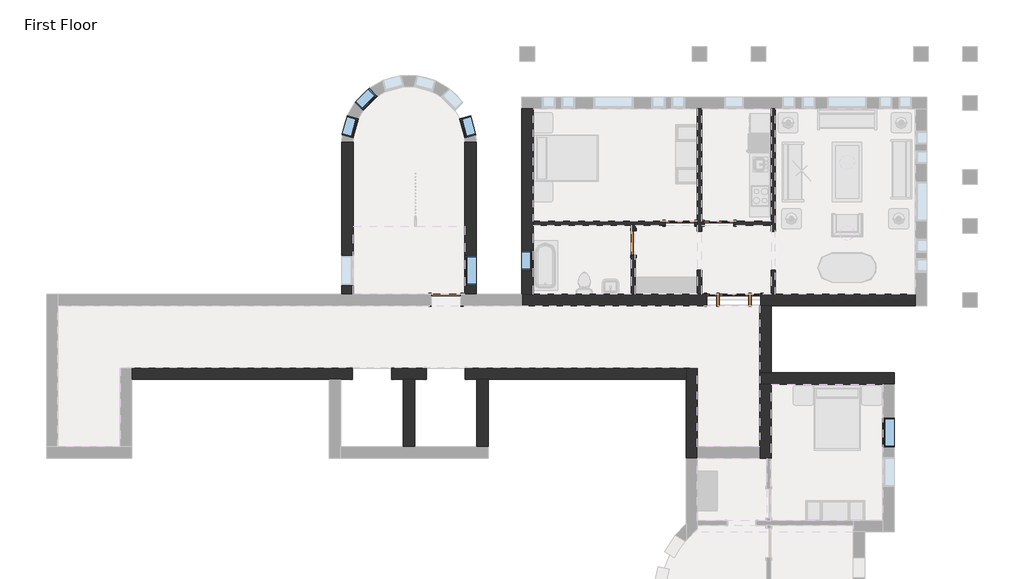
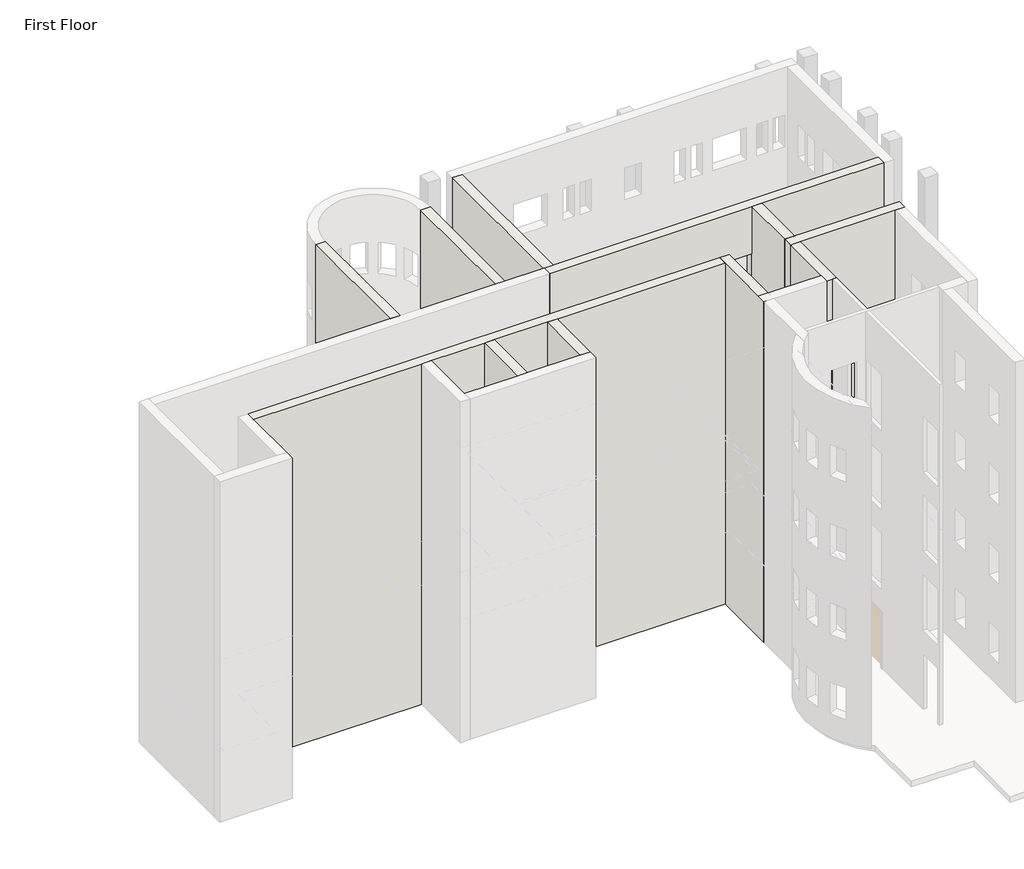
# One storey, part 3 of 8: 17 walls, 6 windows, 5 doors.
"""IFC4 building model written with IfcOpenShell, lengths in millimetres."""

from ifc_helpers import new_model, si_unit, frame, origin, origin_with_axes, place, context, project, spatial, polyline, outline, extrude, faceted_brep, transform, mapped, element, save
from components import door_829da954, door_2e3b4da2, door_4d6c7550, door_632be17d, door_dba5aa2e, window_60baf983, window_15c49d37, m_fixed_0915_x_1220mm_ca90dcf7

model = new_model("IFC4")

# Units and contexts
model_context = context("Model", 3, world=origin())
ifc_project = project(units=[si_unit("LENGTHUNIT", "METRE", prefix="MILLI")], contexts=[model_context])

# Site, building, storey
site = spatial("IfcSite", under=ifc_project)
building = spatial("IfcBuilding", under=site)
storey = spatial("IfcBuildingStorey", under=building, Name="First Floor", Elevation=0.0)

# Doors
placement = place(None, origin())
door_shape = door_829da954(model_context)
element("IfcDoor", 1, ObjectType="Single-Decorative 2 : 36\" x 84\"", at=placement, inside=storey, context=model_context, shape_type="MappedRepresentation", body=[
    mapped(door_shape, transform((-5449.8589563, 6723.5441867, 0.0), x_axis=(-1.0, 0.0, 0.0), y_axis=(0.0, -1.0, 0.0), z_axis=(0.0, 0.0, 1.0))),
])
door_2_shape = door_2e3b4da2(model_context)
element("IfcDoor", 2, ObjectType="Single-Decorative 2 : 36\" x 84\"", at=placement, inside=storey, context=model_context, shape_type="MappedRepresentation", body=[
    mapped(door_2_shape, transform((-6669.0589563, 6723.5441867, 0.0), x_axis=(1.0, 0.0, 0.0), y_axis=(0.0, 1.0, 0.0), z_axis=(0.0, 0.0, 1.0))),
])
door_3_shape = door_4d6c7550(model_context)
element("IfcDoor", 3, ObjectType="Single-Flush : 30\" x 84\"", at=placement, inside=storey, context=model_context, shape_type="MappedRepresentation", body=[
    mapped(door_3_shape, transform((-8105.7464563, 6113.9441867, 0.0), x_axis=(0.0, 1.0, 0.0), y_axis=(-1.0, 0.0, 0.0), z_axis=(0.0, 0.0, 1.0))),
])
door_4_shape = door_632be17d(model_context)
element("IfcDoor", 4, ObjectType="Single-Flush : 36\" x 84\"", at=placement, inside=storey, context=model_context, shape_type="MappedRepresentation", body=[
    mapped(door_4_shape, transform((-13919.1714563, 4350.2316867, 0.0), x_axis=(1.0, 0.0, 0.0), y_axis=(0.0, 1.0, 0.0), z_axis=(0.0, 0.0, 1.0))),
])
door_5_shape = door_dba5aa2e(model_context)
element("IfcDoor", 5, ObjectType="Single-Raised Panel with Sidelights : 36\" x 84\"", at=placement, inside=storey, context=model_context, shape_type="MappedRepresentation", body=[
    mapped(door_5_shape, transform((-4992.6589563, 4350.2316867, 0.0), x_axis=(-1.0, 0.0, 0.0), y_axis=(0.0, -1.0, 0.0), z_axis=(0.0, 0.0, 1.0))),
])

# Walls
element("IfcWall", 6, ObjectType="Exterior - Brick on Mtl. Stud", at=placement, inside=storey, context=model_context, shape_type="Brep", body=[
    faceted_brep([(-11545.8589563, 4526.4441867, 13106.4), (-11545.8589563, 4526.4441867, 0.0), (-11545.8589563, 4174.0191867, 0.0), (-11545.8589563, 4174.0191867, 13106.4), (-11217.2464563, 4526.4441867, 0.0), (-8169.2464563, 4526.4441867, 0.0), (-8042.2464563, 4526.4441867, 0.0), (-6122.9589563, 4526.4441867, 0.0), (-5995.9589563, 4526.4441867, 0.0), (-5830.8589563, 4526.4441867, 0.0), (-5830.8589563, 4174.0191867, 0.0), (-4154.4589563, 4526.4441867, 0.0), (-3836.9589563, 4526.4441867, 0.0), (-3709.9589563, 4526.4441867, 0.0), (622.3285437, 4526.4441867, 0.0), (622.3285437, 4174.0191867, 0.0), (-3836.9589563, 4174.0191867, 0.0), (-4154.4589563, 4174.0191867, 0.0), (622.3285437, 4526.4441867, 13106.4), (-11217.2464563, 4526.4441867, 13106.4), (-4189.3839563, 4174.0191867, 13106.4), (-3836.9589563, 4174.0191867, 13106.4), (622.3285437, 4174.0191867, 13106.4), (-5830.8589563, 4526.4441867, 2133.6), (-4154.4589563, 4526.4441867, 2133.6), (-4154.4589563, 4526.4441867, 6096.0), (-4154.4589563, 4526.4441867, 8229.6), (-5830.8589563, 4526.4441867, 8229.6), (-5830.8589563, 4526.4441867, 6096.0), (-4154.4589563, 4526.4441867, 3048.0), (-4154.4589563, 4526.4441867, 5181.6), (-5830.8589563, 4526.4441867, 5181.6), (-5830.8589563, 4526.4441867, 3048.0), (-4154.4589563, 4526.4441867, 9144.0), (-4154.4589563, 4526.4441867, 11277.6), (-5830.8589563, 4526.4441867, 11277.6), (-5830.8589563, 4526.4441867, 9144.0), (-5830.8589563, 4174.0191867, 2133.6), (-4154.4589563, 4174.0191867, 2133.6), (-4154.4589563, 4174.0191867, 6096.0), (-5830.8589563, 4174.0191867, 6096.0), (-5830.8589563, 4174.0191867, 8229.6), (-4154.4589563, 4174.0191867, 8229.6), (-4154.4589563, 4174.0191867, 3048.0), (-5830.8589563, 4174.0191867, 3048.0), (-5830.8589563, 4174.0191867, 5181.6), (-4154.4589563, 4174.0191867, 5181.6), (-4154.4589563, 4174.0191867, 9144.0), (-5830.8589563, 4174.0191867, 9144.0), (-5830.8589563, 4174.0191867, 11277.6), (-4154.4589563, 4174.0191867, 11277.6)], [[[0, 1, 2, 3]], [[1, 4, 5, 6, 7, 8, 9, 10, 2]], [[11, 12, 13, 14, 15, 16, 17]], [[18, 19, 0, 3, 20, 21, 22]], [[23, 9, 8, 7, 6, 5, 4, 1, 0, 19, 18, 14, 13, 12, 11, 24], [25, 26, 27, 28], [29, 30, 31, 32], [33, 34, 35, 36]], [[2, 10, 37, 38, 17, 16, 15, 22, 21, 20, 3], [39, 40, 41, 42], [43, 44, 45, 46], [47, 48, 49, 50]], [[14, 18, 22, 15]], [[37, 10, 9, 23]], [[38, 37, 23, 24]], [[17, 38, 24, 11]], [[40, 39, 25, 28]], [[41, 40, 28, 27]], [[42, 41, 27, 26]], [[39, 42, 26, 25]], [[44, 43, 29, 32]], [[45, 44, 32, 31]], [[46, 45, 31, 30]], [[43, 46, 30, 29]], [[48, 47, 33, 36]], [[49, 48, 36, 35]], [[50, 49, 35, 34]], [[47, 50, 34, 33]]]),
])
element("IfcWall", 7, ObjectType="Exterior - Brick on Mtl. Stud", at=placement, inside=storey, context=model_context, shape_type="Brep", body=[
    faceted_brep([(-11217.2464563, 4526.4441867, 0.0), (-11217.2464563, 6660.0441867, 0.0), (-11217.2464563, 6787.0441867, 0.0), (-11217.2464563, 10270.0191867, 0.0), (-11217.2464563, 10270.0191867, 13106.4), (-11217.2464563, 4526.4441867, 13106.4), (-11217.2464563, 5264.6316867, 8229.6), (-11217.2464563, 5874.2316867, 8229.6), (-11217.2464563, 5874.2316867, 7010.4), (-11217.2464563, 5264.6316867, 7010.4), (-11217.2464563, 5264.6316867, 5181.6), (-11217.2464563, 5874.2316867, 5181.6), (-11217.2464563, 5874.2316867, 3962.4), (-11217.2464563, 5264.6316867, 3962.4), (-11217.2464563, 5264.6316867, 11277.6), (-11217.2464563, 5874.2316867, 11277.6), (-11217.2464563, 5874.2316867, 10058.4), (-11217.2464563, 5264.6316867, 10058.4), (-11217.2464563, 5264.6316867, 2133.6), (-11217.2464563, 5874.2316867, 2133.6), (-11217.2464563, 5874.2316867, 914.4), (-11217.2464563, 5264.6316867, 914.4), (-11569.6714563, 4526.4441867, 0.0), (-11569.6714563, 4526.4441867, 13106.4), (-11569.6714563, 10270.0191867, 13106.4), (-11569.6714563, 10270.0191867, 0.0), (-11569.6714563, 5264.6316867, 8229.6), (-11569.6714563, 5264.6316867, 7010.4), (-11569.6714563, 5874.2316867, 7010.4), (-11569.6714563, 5874.2316867, 8229.6), (-11569.6714563, 5264.6316867, 5181.6), (-11569.6714563, 5264.6316867, 3962.4), (-11569.6714563, 5874.2316867, 3962.4), (-11569.6714563, 5874.2316867, 5181.6), (-11569.6714563, 5264.6316867, 11277.6), (-11569.6714563, 5264.6316867, 10058.4), (-11569.6714563, 5874.2316867, 10058.4), (-11569.6714563, 5874.2316867, 11277.6), (-11569.6714563, 5264.6316867, 2133.6), (-11569.6714563, 5264.6316867, 914.4), (-11569.6714563, 5874.2316867, 914.4), (-11569.6714563, 5874.2316867, 2133.6), (-11545.8589563, 4526.4441867, 13106.4), (-11545.8589563, 4526.4441867, 0.0), (-11382.3464563, 4526.4441867, 0.0), (-11382.3464563, 10270.0191867, 0.0)], [[[0, 1, 2, 3, 4, 5], [6, 7, 8, 9], [10, 11, 12, 13], [14, 15, 16, 17], [18, 19, 20, 21]], [[22, 23, 24, 25], [26, 27, 28, 29], [30, 31, 32, 33], [34, 35, 36, 37], [38, 39, 40, 41]], [[5, 4, 24, 23, 42]], [[0, 5, 42, 23, 22, 43, 44]], [[4, 3, 45, 25, 24]], [[44, 43, 22, 25, 45]], [[3, 2, 1, 0, 44, 45]], [[27, 26, 6, 9]], [[28, 27, 9, 8]], [[29, 28, 8, 7]], [[26, 29, 7, 6]], [[31, 30, 10, 13]], [[32, 31, 13, 12]], [[33, 32, 12, 11]], [[30, 33, 11, 10]], [[35, 34, 14, 17]], [[36, 35, 17, 16]], [[37, 36, 16, 15]], [[34, 37, 15, 14]], [[39, 38, 18, 21]], [[40, 39, 21, 20]], [[41, 40, 20, 19]], [[38, 41, 19, 18]]]),
])
element("IfcWall", 8, ObjectType="Exterior - Brick on Mtl. Stud", at=placement, inside=storey, context=model_context, shape_type="SweptSolid", body=[
    extrude(outline(polyline([(-12599.9589563, 1888.0191867), (-12599.9589563, -197.9558133), (-12952.3839563, -197.9558133), (-12952.3839563, 1888.0191867), (-12599.9589563, 1888.0191867)])), origin_with_axes(), (0.0, 0.0, 1.0), 13106.4),
])
element("IfcWall", 9, ObjectType="Exterior - Brick on Mtl. Stud", at=placement, inside=storey, context=model_context, shape_type="Brep", body=[
    faceted_brep([(-23648.9589563, 2240.4441867, 0.0), (-16814.7714563, 2240.4441867, 0.0), (-16814.7714563, 1888.0191867, 0.0), (-17171.9589563, 1888.0191867, 0.0), (-17524.3839563, 1888.0191867, 0.0), (-23648.9589563, 1888.0191867, 0.0), (-15595.5714563, 2240.4441867, 0.0), (-14528.7714563, 2240.4441867, 0.0), (-14528.7714563, 1888.0191867, 0.0), (-14885.9589563, 1888.0191867, 0.0), (-15238.3839563, 1888.0191867, 0.0), (-15595.5714563, 1888.0191867, 0.0), (-13309.5714563, 2240.4441867, 0.0), (-6475.3839563, 2240.4441867, 0.0), (-6475.3839563, 1888.0191867, 0.0), (-12599.9589563, 1888.0191867, 0.0), (-12952.3839563, 1888.0191867, 0.0), (-13309.5714563, 1888.0191867, 0.0), (-23648.9589563, 1888.0191867, 13106.4), (-17524.3839563, 1888.0191867, 13106.4), (-17171.9589563, 1888.0191867, 13106.4), (-15238.3839563, 1888.0191867, 13106.4), (-14885.9589563, 1888.0191867, 13106.4), (-12952.3839563, 1888.0191867, 13106.4), (-12599.9589563, 1888.0191867, 13106.4), (-6475.3839563, 1888.0191867, 13106.4), (-6475.3839563, 2240.4441867, 13106.4), (-23648.9589563, 2240.4441867, 13106.4), (-14528.7714563, 1888.0191867, 2133.6), (-13309.5714563, 1888.0191867, 2133.6), (-16814.7714563, 1888.0191867, 2133.6), (-15595.5714563, 1888.0191867, 2133.6), (-15595.5714563, 1888.0191867, 11277.6), (-15595.5714563, 1888.0191867, 9144.0), (-16814.7714563, 1888.0191867, 9144.0), (-16814.7714563, 1888.0191867, 11277.6), (-13309.5714563, 1888.0191867, 11277.6), (-13309.5714563, 1888.0191867, 9144.0), (-14528.7714563, 1888.0191867, 9144.0), (-14528.7714563, 1888.0191867, 11277.6), (-15595.5714563, 1888.0191867, 5181.6), (-15595.5714563, 1888.0191867, 3048.0), (-16814.7714563, 1888.0191867, 3048.0), (-16814.7714563, 1888.0191867, 5181.6), (-13309.5714563, 1888.0191867, 5181.6), (-13309.5714563, 1888.0191867, 3048.0), (-14528.7714563, 1888.0191867, 3048.0), (-14528.7714563, 1888.0191867, 5181.6), (-15595.5714563, 1888.0191867, 8229.6), (-15595.5714563, 1888.0191867, 6096.0), (-16814.7714563, 1888.0191867, 6096.0), (-16814.7714563, 1888.0191867, 8229.6), (-13309.5714563, 1888.0191867, 8229.6), (-13309.5714563, 1888.0191867, 6096.0), (-14528.7714563, 1888.0191867, 6096.0), (-14528.7714563, 1888.0191867, 8229.6), (-14528.7714563, 2240.4441867, 2133.6), (-15595.5714563, 2240.4441867, 2133.6), (-16814.7714563, 2240.4441867, 2133.6), (-13309.5714563, 2240.4441867, 2133.6), (-15595.5714563, 2240.4441867, 11277.6), (-16814.7714563, 2240.4441867, 11277.6), (-16814.7714563, 2240.4441867, 9144.0), (-15595.5714563, 2240.4441867, 9144.0), (-13309.5714563, 2240.4441867, 11277.6), (-14528.7714563, 2240.4441867, 11277.6), (-14528.7714563, 2240.4441867, 9144.0), (-13309.5714563, 2240.4441867, 9144.0), (-15595.5714563, 2240.4441867, 5181.6), (-16814.7714563, 2240.4441867, 5181.6), (-16814.7714563, 2240.4441867, 3048.0), (-15595.5714563, 2240.4441867, 3048.0), (-13309.5714563, 2240.4441867, 5181.6), (-14528.7714563, 2240.4441867, 5181.6), (-14528.7714563, 2240.4441867, 3048.0), (-13309.5714563, 2240.4441867, 3048.0), (-15595.5714563, 2240.4441867, 8229.6), (-16814.7714563, 2240.4441867, 8229.6), (-16814.7714563, 2240.4441867, 6096.0), (-15595.5714563, 2240.4441867, 6096.0), (-13309.5714563, 2240.4441867, 8229.6), (-14528.7714563, 2240.4441867, 8229.6), (-14528.7714563, 2240.4441867, 6096.0), (-13309.5714563, 2240.4441867, 6096.0)], [[[0, 1, 2, 3, 4, 5]], [[6, 7, 8, 9, 10, 11]], [[12, 13, 14, 15, 16, 17]], [[18, 19, 20, 21, 22, 23, 24, 25, 26, 27]], [[11, 10, 9, 8, 28, 29, 17, 16, 15, 14, 25, 24, 23, 22, 21, 20, 19, 18, 5, 4, 3, 2, 30, 31], [32, 33, 34, 35], [36, 37, 38, 39], [40, 41, 42, 43], [44, 45, 46, 47], [48, 49, 50, 51], [52, 53, 54, 55]], [[56, 7, 6, 57, 58, 1, 0, 27, 26, 13, 12, 59], [60, 61, 62, 63], [64, 65, 66, 67], [68, 69, 70, 71], [72, 73, 74, 75], [76, 77, 78, 79], [80, 81, 82, 83]], [[25, 14, 13, 26]], [[5, 18, 27, 0]], [[11, 31, 57, 6]], [[30, 2, 1, 58]], [[31, 30, 58, 57]], [[17, 29, 59, 12]], [[28, 8, 7, 56]], [[29, 28, 56, 59]], [[33, 32, 60, 63]], [[34, 33, 63, 62]], [[35, 34, 62, 61]], [[32, 35, 61, 60]], [[37, 36, 64, 67]], [[38, 37, 67, 66]], [[39, 38, 66, 65]], [[36, 39, 65, 64]], [[41, 40, 68, 71]], [[42, 41, 71, 70]], [[43, 42, 70, 69]], [[40, 43, 69, 68]], [[45, 44, 72, 75]], [[46, 45, 75, 74]], [[47, 46, 74, 73]], [[44, 47, 73, 72]], [[49, 48, 76, 79]], [[50, 49, 79, 78]], [[51, 50, 78, 77]], [[48, 51, 77, 76]], [[53, 52, 80, 83]], [[54, 53, 83, 82]], [[55, 54, 82, 81]], [[52, 55, 81, 80]]]),
])
element("IfcWall", 10, ObjectType="Exterior - Brick on Mtl. Stud", at=placement, inside=storey, context=model_context, shape_type="SweptSolid", body=[
    extrude(outline(polyline([(4526.4441867, 0.0), (4526.4441867, 13106.4), (9227.0316867, 13106.4), (9227.0316867, 0.0), (4526.4441867, 0.0)]), holes=[polyline([(4807.4316867, 2133.6), (4807.4316867, 914.4), (5721.8316867, 914.4), (5721.8316867, 2133.6), (4807.4316867, 2133.6)]), polyline([(4807.4316867, 11277.6), (4807.4316867, 10058.4), (5721.8316867, 10058.4), (5721.8316867, 11277.6), (4807.4316867, 11277.6)]), polyline([(4807.4316867, 5181.6), (4807.4316867, 3962.4), (5721.8316867, 3962.4), (5721.8316867, 5181.6), (4807.4316867, 5181.6)]), polyline([(4807.4316867, 8229.6), (4807.4316867, 7010.4), (5721.8316867, 7010.4), (5721.8316867, 8229.6), (4807.4316867, 8229.6)])]), frame((-17143.3839563, 0.0, 0.0), z_axis=(1.0, 0.0, 0.0), x_axis=(0.0, 1.0, 0.0)), (0.0, 0.0, 1.0), 352.425),
])
element("IfcWall", 11, ObjectType="Exterior - Brick on Mtl. Stud", at=placement, inside=storey, context=model_context, shape_type="SweptSolid", body=[
    extrude(outline(polyline([(4526.4441867, 0.0), (4526.4441867, 13106.4), (9227.0316867, 13106.4), (9227.0316867, 0.0), (4526.4441867, 0.0)]), holes=[polyline([(5721.8316867, 2133.6), (4807.4316867, 2133.6), (4807.4316867, 914.4), (5721.8316867, 914.4), (5721.8316867, 2133.6)]), polyline([(5721.8316867, 11277.6), (4807.4316867, 11277.6), (4807.4316867, 10058.4), (5721.8316867, 10058.4), (5721.8316867, 11277.6)]), polyline([(5721.8316867, 5181.6), (4807.4316867, 5181.6), (4807.4316867, 3962.4), (5721.8316867, 3962.4), (5721.8316867, 5181.6)]), polyline([(5721.8316867, 8229.6), (4807.4316867, 8229.6), (4807.4316867, 7010.4), (5721.8316867, 7010.4), (5721.8316867, 8229.6)])]), frame((-13333.3839563, 0.0, 0.0), z_axis=(1.0, 0.0, 0.0), x_axis=(0.0, 1.0, 0.0)), (0.0, 0.0, 1.0), 352.425),
])
element("IfcWall", 12, ObjectType="Exterior - Brick on Mtl. Stud", at=placement, inside=storey, context=model_context, shape_type="SweptSolid", body=[
    extrude(outline(polyline([(-14885.9589563, 1888.0191867), (-14885.9589563, -197.9558133), (-15238.3839563, -197.9558133), (-15238.3839563, 1888.0191867), (-14885.9589563, 1888.0191867)])), origin_with_axes(), (0.0, 0.0, 1.0), 13106.4),
])
element("IfcWall", 13, ObjectType="Exterior - Brick on Mtl. Stud", at=placement, inside=storey, context=model_context, shape_type="Brep", body=[
    faceted_brep([(-6475.3839563, 2240.4441867, 0.0), (-6475.3839563, 1888.0191867, 0.0), (-6475.3839563, -550.3808133, 0.0), (-6475.3839563, -550.3808133, 13106.4), (-6475.3839563, -197.9558133, 13106.4), (-6475.3839563, 1888.0191867, 13106.4), (-6475.3839563, 2240.4441867, 13106.4), (-6122.9589563, 2240.4441867, 0.0), (-6122.9589563, 2240.4441867, 13106.4), (-6122.9589563, -197.9558133, 13106.4), (-6122.9589563, -550.3808133, 13106.4), (-6122.9589563, -550.3808133, 0.0), (-6122.9589563, -197.9558133, 0.0)], [[[0, 1, 2, 3, 4, 5, 6]], [[7, 8, 9, 10, 11, 12]], [[2, 1, 0, 7, 12, 11]], [[6, 5, 4, 3, 10, 9, 8]], [[0, 6, 8, 7]], [[3, 2, 11, 10]]]),
])
element("IfcWall", 14, ObjectType="Exterior - Brick on Mtl. Stud", at=placement, inside=storey, context=model_context, shape_type="SweptSolid", body=[
    extrude(outline(polyline([(-3836.9589563, 2089.6316867), (-3836.9589563, 2088.0441867), (-4189.3839563, 2088.0441867), (-4189.3839563, 2089.6316867), (-3836.9589563, 2089.6316867)])), origin_with_axes(), (0.0, 0.0, 1.0), 13106.4),
])
element("IfcWall", 15, ObjectType="Exterior - Brick on Mtl. Stud", at=placement, inside=storey, context=model_context, shape_type="Brep", body=[
    faceted_brep([(-4189.3839563, 1735.6191867, 13107.0), (-4189.3839563, 1735.6191867, 0.0), (-3836.9589563, 1735.6191867, 0.0), (-379.3839563, 1735.6191867, 0.0), (-26.9589563, 1735.6191867, 0.0), (-26.9589563, 1735.6191867, 13107.0), (-379.3839563, 1735.6191867, 13107.0), (-3836.9589563, 1735.6191867, 13107.0), (-4189.3839563, 2088.0441867, 0.0), (-4189.3839563, 2088.0441867, 13106.4), (-4189.3839563, 2088.0441867, 13107.0), (-26.9589563, 2088.0441867, 13107.0), (-26.9589563, 2088.0441867, 0.0), (-3836.9589563, 2088.0441867, 0.0)], [[[0, 1, 2, 3, 4, 5, 6, 7]], [[8, 9, 10, 11, 12, 13]], [[4, 3, 2, 1, 8, 13, 12]], [[0, 7, 6, 5, 11, 10]], [[5, 4, 12, 11]], [[0, 10, 9, 8, 1]]]),
])
element("IfcWall", 16, ObjectType="Exterior - Brick on Mtl. Stud", at=placement, inside=storey, context=model_context, shape_type="Brep", body=[
    faceted_brep([(-4189.3839563, 1735.6191867, 13107.0), (-4189.3839563, 1735.6191867, 0.0), (-4189.3839563, -197.9558133, 0.0), (-4189.3839563, -550.3808133, 0.0), (-4189.3839563, -550.3808133, 13107.0), (-4189.3839563, -197.9558133, 13107.0), (-3836.9589563, 1735.6191867, 0.0), (-3836.9589563, 1735.6191867, 13107.0), (-3836.9589563, -550.3808133, 13107.0), (-3836.9589563, -550.3808133, 0.0), (-3845.4214563, -550.3808133, 0.0), (-3980.9214563, -550.3808133, 0.0), (-3980.9214563, -550.3808133, 13107.0), (-3845.4214563, -550.3808133, 13107.0)], [[[0, 1, 2, 3, 4, 5]], [[6, 7, 8, 9]], [[3, 2, 1, 6, 9, 10, 11]], [[0, 5, 4, 12, 13, 8, 7]], [[4, 3, 11, 10, 9, 8, 13, 12]], [[0, 7, 6, 1]]]),
])
element("IfcWall", 17, ObjectType="Exterior - Brick on Mtl. Stud", at=placement, inside=storey, context=model_context, shape_type="Brep", body=[
    faceted_brep([(-3836.9589563, 2089.6316867, 0.0), (-3836.9589563, 4174.0191867, 0.0), (-3836.9589563, 4174.0191867, 13106.4), (-3836.9589563, 2089.6316867, 13106.4), (-4189.3839563, 2089.6316867, 0.0), (-4189.3839563, 2089.6316867, 13106.4), (-4189.3839563, 4174.0191867, 13106.4), (-4189.3839563, 4174.0191867, 0.0), (-4154.4589563, 4174.0191867, 0.0)], [[[0, 1, 2, 3]], [[4, 5, 6, 7]], [[1, 0, 4, 7, 8]], [[3, 2, 6, 5]], [[0, 3, 5, 4]], [[2, 1, 8, 7, 6]]]),
])
element("IfcWall", 18, ObjectType="Interior - 5\" Partition (2-hr)", at=placement, inside=storey, context=model_context, shape_type="Brep", body=[
    faceted_brep([(-3709.9589563, 10270.0191867, 0.0), (-3709.9589563, 6483.8316867, 0.0), (-3836.9589563, 6483.8316867, 0.0), (-3836.9589563, 6660.0441867, 0.0), (-3836.9589563, 6787.0441867, 0.0), (-3836.9589563, 10270.0191867, 0.0), (-3709.9589563, 5264.6316867, 0.0), (-3709.9589563, 4526.4441867, 0.0), (-3836.9589563, 4526.4441867, 0.0), (-3836.9589563, 5264.6316867, 0.0), (-3836.9589563, 10270.0191867, 3048.0), (-3836.9589563, 6787.0441867, 3048.0), (-3836.9589563, 6660.0441867, 3048.0), (-3836.9589563, 4526.4441867, 3048.0), (-3709.9589563, 4526.4441867, 3048.0), (-3709.9589563, 10270.0191867, 3048.0), (-3836.9589563, 6483.8316867, 2133.6), (-3836.9589563, 5264.6316867, 2133.6), (-3709.9589563, 6483.8316867, 2133.6), (-3709.9589563, 5264.6316867, 2133.6)], [[[0, 1, 2, 3, 4, 5]], [[6, 7, 8, 9]], [[10, 11, 12, 13, 14, 15]], [[5, 4, 3, 2, 16, 17, 9, 8, 13, 12, 11, 10]], [[18, 1, 0, 15, 14, 7, 6, 19]], [[5, 10, 15, 0]], [[13, 8, 7, 14]], [[9, 17, 19, 6]], [[16, 2, 1, 18]], [[17, 16, 18, 19]]]),
])
element("IfcWall", 19, ObjectType="Interior - 5\" Partition (2-hr)", at=placement, inside=storey, context=model_context, shape_type="Brep", body=[
    faceted_brep([(-6122.9589563, 4526.4441867, 0.0), (-6122.9589563, 5264.6316867, 0.0), (-5995.9589563, 5264.6316867, 0.0), (-5995.9589563, 4526.4441867, 0.0), (-6122.9589563, 6483.8316867, 0.0), (-6122.9589563, 6660.0441867, 0.0), (-6122.9589563, 6787.0441867, 0.0), (-6122.9589563, 10270.0191867, 0.0), (-5995.9589563, 10270.0191867, 0.0), (-5995.9589563, 6787.0441867, 0.0), (-5995.9589563, 6660.0441867, 0.0), (-5995.9589563, 6483.8316867, 0.0), (-6122.9589563, 10270.0191867, 3048.0), (-6122.9589563, 6787.0441867, 3048.0), (-6122.9589563, 6660.0441867, 3048.0), (-6122.9589563, 4526.4441867, 3048.0), (-5995.9589563, 4526.4441867, 3048.0), (-5995.9589563, 6660.0441867, 3048.0), (-5995.9589563, 6787.0441867, 3048.0), (-5995.9589563, 10270.0191867, 3048.0), (-6122.9589563, 5264.6316867, 2133.6), (-6122.9589563, 6483.8316867, 2133.6), (-5995.9589563, 5264.6316867, 2133.6), (-5995.9589563, 6483.8316867, 2133.6)], [[[0, 1, 2, 3]], [[4, 5, 6, 7, 8, 9, 10, 11]], [[12, 13, 14, 15, 16, 17, 18, 19]], [[20, 1, 0, 15, 14, 13, 12, 7, 6, 5, 4, 21]], [[3, 2, 22, 23, 11, 10, 9, 8, 19, 18, 17, 16]], [[7, 12, 19, 8]], [[15, 0, 3, 16]], [[11, 23, 21, 4]], [[22, 2, 1, 20]], [[23, 22, 20, 21]]]),
])
element("IfcWall", 20, ObjectType="Interior - 5\" Partition (2-hr)", at=placement, inside=storey, context=model_context, shape_type="Brep", body=[
    faceted_brep([(-6122.9589563, 6660.0441867, 0.0), (-6211.8589563, 6660.0441867, 0.0), (-6211.8589563, 6787.0441867, 0.0), (-6122.9589563, 6787.0441867, 0.0), (-7126.2589563, 6660.0441867, 0.0), (-8042.2464563, 6660.0441867, 0.0), (-8169.2464563, 6660.0441867, 0.0), (-11217.2464563, 6660.0441867, 0.0), (-11217.2464563, 6787.0441867, 0.0), (-7126.2589563, 6787.0441867, 0.0), (-11217.2464563, 6660.0441867, 3048.0), (-8169.2464563, 6660.0441867, 3048.0), (-8042.2464563, 6660.0441867, 3048.0), (-6122.9589563, 6660.0441867, 3048.0), (-6122.9589563, 6787.0441867, 3048.0), (-11217.2464563, 6787.0441867, 3048.0), (-6211.8589563, 6660.0441867, 2133.6), (-7126.2589563, 6660.0441867, 2133.6), (-6211.8589563, 6787.0441867, 2133.6), (-7126.2589563, 6787.0441867, 2133.6)], [[[0, 1, 2, 3]], [[4, 5, 6, 7, 8, 9]], [[10, 11, 12, 13, 14, 15]], [[16, 1, 0, 13, 12, 11, 10, 7, 6, 5, 4, 17]], [[3, 2, 18, 19, 9, 8, 15, 14]], [[7, 10, 15, 8]], [[13, 0, 3, 14]], [[18, 2, 1, 16]], [[19, 18, 16, 17]], [[9, 19, 17, 4]]]),
])
element("IfcWall", 21, ObjectType="Interior - 5\" Partition (2-hr)", at=placement, inside=storey, context=model_context, shape_type="SweptSolid", body=[
    extrude(outline(polyline([(6660.0441867, 0.0), (6494.9441867, 0.0), (6494.9441867, 2133.6), (5732.9441867, 2133.6), (5732.9441867, 0.0), (4526.4441867, 0.0), (4526.4441867, 3048.0), (6660.0441867, 3048.0), (6660.0441867, 0.0)])), frame((-8169.2464563, 0.0, 0.0), z_axis=(1.0, 0.0, 0.0), x_axis=(0.0, 1.0, 0.0)), (0.0, 0.0, 1.0), 127.0),
])
element("IfcWall", 22, ObjectType="Interior - 5\" Partition (2-hr)", at=placement, inside=storey, context=model_context, shape_type="SweptSolid", body=[
    extrude(outline(polyline([(0.0, -5995.9589563), (0.0, -5907.0589563), (2133.6, -5907.0589563), (2133.6, -4992.6589563), (0.0, -4992.6589563), (0.0, -3836.9589563), (3048.0, -3836.9589563), (3048.0, -5995.9589563), (0.0, -5995.9589563)])), frame((0.0, 6660.0441867, 0.0), z_axis=(0.0, 1.0, 0.0), x_axis=(0.0, 0.0, 1.0)), (0.0, 0.0, 1.0), 127.0),
])

# Windows
window_shape = window_60baf983(model_context)
element("IfcWindow", 23, ObjectType="Fixed : 24\" x 48\"", at=placement, inside=storey, context=model_context, shape_type="MappedRepresentation", body=[
    mapped(window_shape, transform((-11393.4589563, 5531.3316867, 0.0), x_axis=(0.0, -1.0, 0.0), y_axis=(1.0, 0.0, 0.0), z_axis=(0.0, 0.0, 1.0))),
])
element("IfcWindow", 24, ObjectType="Fixed : 24\" x 48\"", at=placement, inside=storey, context=model_context, shape_type="MappedRepresentation", body=[
    mapped(window_shape, transform((-16889.064163, 9683.0417496, 0.0), x_axis=(-0.2617614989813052, -0.9651325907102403, 0.0), y_axis=(0.9651325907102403, -0.2617614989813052, 0.0), z_axis=(0.0, 0.0, 1.0))),
])
element("IfcWindow", 25, ObjectType="Fixed : 24\" x 48\"", at=placement, inside=storey, context=model_context, shape_type="MappedRepresentation", body=[
    mapped(window_shape, transform((-16416.3019188, 10535.3943388, 0.0), x_axis=(-0.7092584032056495, -0.7049485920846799, 0.0), y_axis=(0.7049485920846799, -0.7092584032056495, 0.0), z_axis=(0.0, 0.0, 1.0))),
])
element("IfcWindow", 26, ObjectType="Fixed : 24\" x 48\"", at=placement, inside=storey, context=model_context, shape_type="MappedRepresentation", body=[
    mapped(window_shape, transform((-13252.0309309, 9745.5617412, 0.0), x_axis=(-0.25587418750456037, 0.9667100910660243, 0.0), y_axis=(-0.9667100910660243, -0.25587418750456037, 0.0), z_axis=(0.0, 0.0, 1.0))),
])
window_2_shape = window_15c49d37(model_context)
element("IfcWindow", 27, ObjectType="Fixed : 36\" x 48\"", at=placement, inside=storey, context=model_context, shape_type="MappedRepresentation", body=[
    mapped(window_2_shape, transform((-13157.1714563, 5302.7316867, 0.0), x_axis=(0.0, 1.0, 0.0), y_axis=(-1.0, 0.0, 0.0), z_axis=(0.0, 0.0, 1.0))),
])
m_fixed_0915_x_1220mm_shape = m_fixed_0915_x_1220mm_ca90dcf7(model_context)
element("IfcWindow", 28, ObjectType="M_Fixed : 0915 x 1220mm", at=placement, inside=storey, context=model_context, shape_type="MappedRepresentation", body=[
    mapped(m_fixed_0915_x_1220mm_shape, transform((-190.1714563, 235.4316867, 0.0), x_axis=(0.0, 1.0, 0.0), y_axis=(-1.0, 0.0, 0.0), z_axis=(0.0, 0.0, 1.0))),
])

save(model, "model.ifc")
